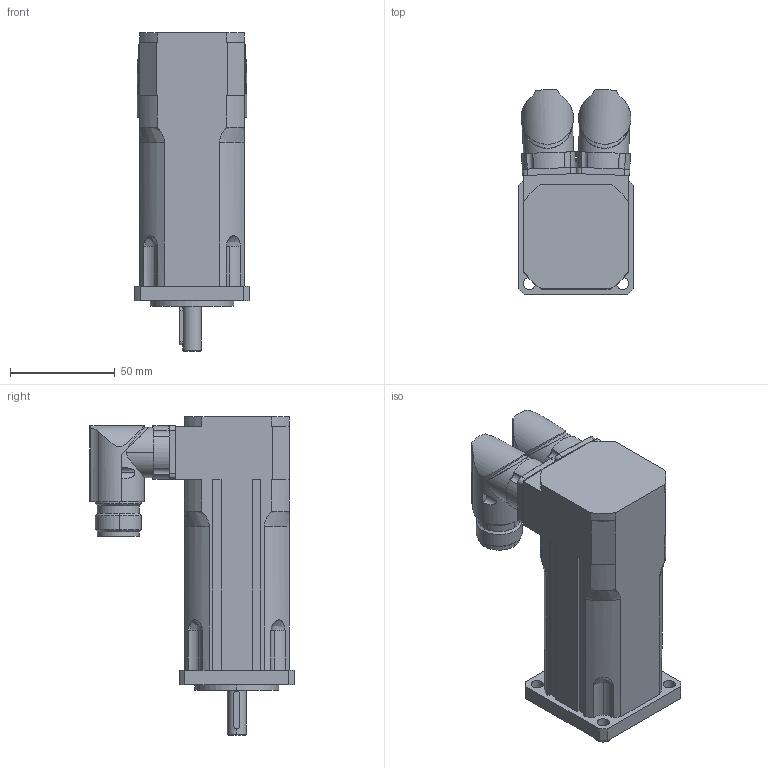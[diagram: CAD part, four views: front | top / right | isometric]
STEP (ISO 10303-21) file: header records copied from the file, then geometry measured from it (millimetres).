
FILE_DESCRIPTION(('STEP AP203'),'2;1');
FILE_NAME('MT2-0060.stp','2006-08-28T20:02:04',(''),(''),'2005.2.102','THINKDESIGN','');
FILE_SCHEMA(('CONFIG_CONTROL_DESIGN'));
Length unit declared in the file: millimetre
Bounding box: 55 x 97.7 x 152 mm (x, y, z)
Volume: 358024.6 mm3; surface area: 52552.8 mm2
Topology: 3 solids, 3 shells, 262 faces, 694 edges, 448 vertices
Faces by surface type: cylinder 116, plane 102, bspline 44
Entity records: 9879 total; most frequent: CARTESIAN_POINT 3284, ORIENTED_EDGE 1388, DIRECTION 1362, EDGE_CURVE 694, AXIS2_PLACEMENT_3D 520, VERTEX_POINT 448, VECTOR 322, LINE 322
